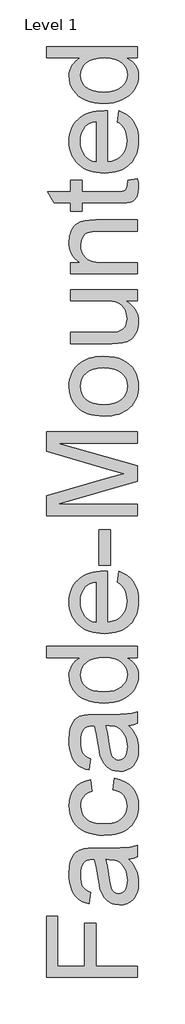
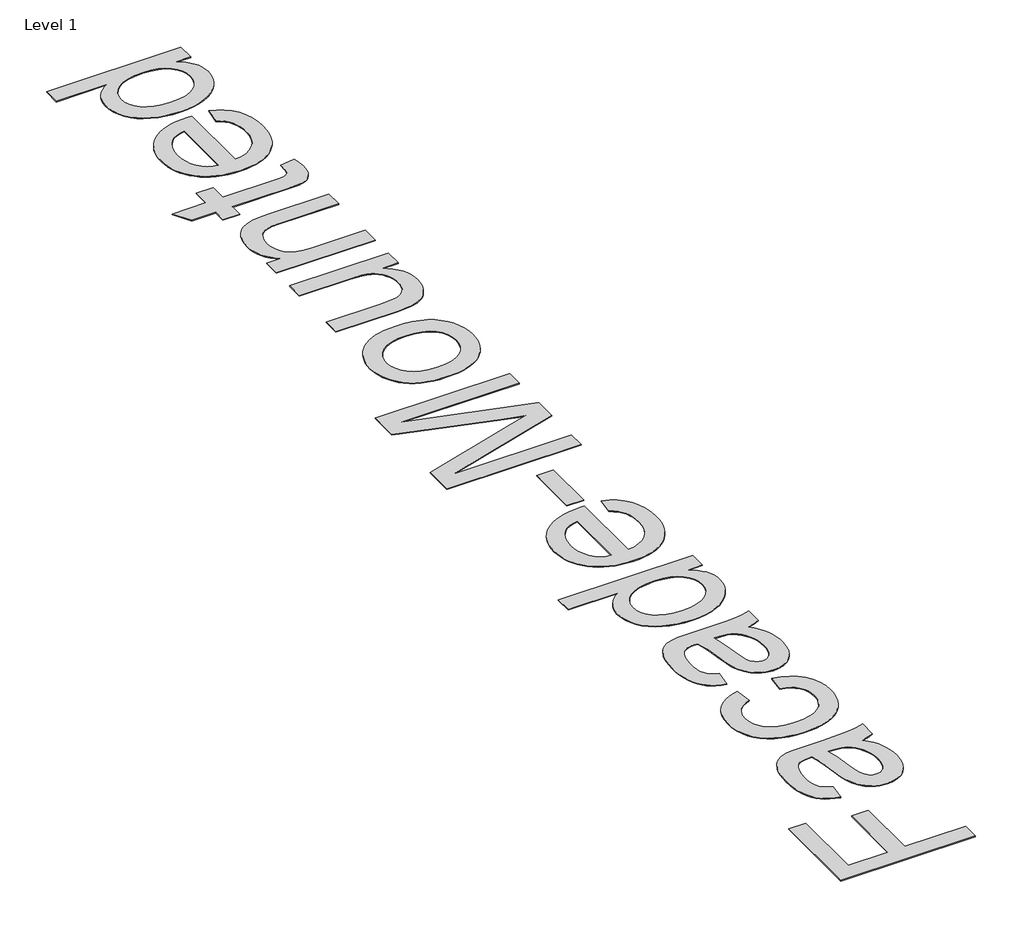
# One storey, part 16 of 69: 1 proxy.
"""IFC4 building model written with IfcOpenShell, lengths in millimetres."""

from ifc_helpers import new_model, si_unit, origin, origin_with_axes, place, context, project, spatial, polyline, outline, extrude, element, save

model = new_model("IFC4")

# Units and contexts
model_context = context("Model", 3, world=origin())
ifc_project = project(units=[si_unit("LENGTHUNIT", "METRE", prefix="MILLI")], contexts=[model_context])

# Site, building, storey
site = spatial("IfcSite", under=ifc_project)
building = spatial("IfcBuilding", under=site)
storey = spatial("IfcBuildingStorey", under=building, Name="Level 1", Elevation=0.0)

# Proxy
placement = place(None, origin())
element("IfcBuildingElementProxy", 1, Name="1000mm Arial", ObjectType="1000mm Arial", at=placement, inside=storey, context=model_context, shape_type="SweptSolid", body=[
    extrude(outline(polyline([(70561.0349961, -25723.1471203), (69556.4718946, -25723.1471203), (69556.4718946, -25048.2062865), (69682.0422823, -25048.2062865), (69682.0422823, -25597.5767326), (69980.271953, -25597.5767326), (69980.271953, -25126.6877788), (70105.8423407, -25126.6877788), (70105.8423407, -25597.5767326), (70561.0349961, -25597.5767326), (70561.0349961, -25723.1471203)])), origin_with_axes(), (0.0, 0.0, 1.0), 5.0),
    extrude(outline(polyline([(70466.8572053, -24420.3543481), (70494.8009085, -24450.1297971), (70518.299371, -24480.3497701), (70537.3525927, -24511.0142673), (70551.9605735, -24542.1232885), (70562.797764, -24574.0293874), (70570.5386143, -24607.0851175), (70575.1831245, -24641.2904788), (70576.7312946, -24676.6454714), (70573.0064894, -24732.5558704), (70561.8320737, -24781.5838105), (70543.2080477, -24823.7292916), (70517.1344113, -24858.9923137), (70485.2666335, -24886.8363822), (70449.2601832, -24906.7250025), (70409.1150605, -24918.6581748), (70364.8312653, -24922.6358988), (70312.775963, -24916.6271596), (70288.5417366, -24909.1162355), (70265.5031266, -24898.6009418), (70225.0361072, -24870.7951943), (70193.3982556, -24835.447866), (70169.4859259, -24793.9078573), (70152.1954721, -24747.5240691), (70142.5692266, -24702.3358974), (70133.310863, -24638.8762532), (70113.4452353, -24510.4854369), (70102.2248344, -24460.913338), (70090.1460423, -24421.0901121), (70062.1870106, -24420.3543481), (70031.7447755, -24422.5156548), (70006.14632, -24428.999575), (69985.3916441, -24439.8061086), (69969.4807478, -24454.9352556), (69953.6005084, -24481.0855341), (69942.2574802, -24512.9379835), (69935.4516633, -24550.4926039), (69933.1830577, -24593.7493951), (69934.6929067, -24633.9711599), (69939.2224537, -24668.5520675), (69946.7716989, -24697.4921178), (69957.340642, -24720.7913108), (69971.7570177, -24739.936503), (69990.8485604, -24756.4145507), (70014.6152701, -24770.2254539), (70043.0571469, -24781.3692127), (70027.3608484, -24906.9396004), (69991.1857856, -24897.3823327), (69958.6895427, -24885.1425922), (69929.8721197, -24870.2203787), (69904.7335167, -24852.6156924), (69882.7678959, -24831.5697766), (69863.4694196, -24806.3238747), (69846.8380877, -24776.8779867), (69832.8739003, -24743.2321125), (69821.822112, -24706.0683668), (69813.9279776, -24666.068864), (69809.1914969, -24623.2336042), (69807.61267, -24577.5625873), (69813.1922136, -24492.673817), (69820.1666431, -24456.8283151), (69829.9308443, -24425.3820687), (69855.1001042, -24374.6450102), (69869.8230482, -24355.093615), (69885.9715349, -24339.4203091), (69924.1392919, -24316.0598024), (69971.1975305, -24300.915327), (70014.6076059, -24296.316802), (70081.0716197, -24294.7839604), (70237.2988403, -24294.7839604), (70373.3845217, -24293.1898051), (70455.4528635, -24288.4073391), (70509.3782326, -24278.9650346), (70561.0349961, -24263.3913635), (70561.0349961, -24388.9617512), (70517.379666, -24409.0726336), (70466.8572053, -24420.3543481)]), holes=[polyline([(70215.71643, -24420.3543481), (70236.62439, -24504.7219523), (70254.2214121, -24622.9347001), (70263.8476577, -24688.0804701), (70274.5775492, -24730.9693793), (70288.4957513, -24759.0816951), (70307.6869287, -24779.8976847), (70330.6795534, -24792.7735545), (70356.0020974, -24797.0655111), (70375.5151716, -24794.7279276), (70393.34212, -24787.7151771), (70409.4829425, -24776.0272595), (70423.9376392, -24759.664175), (70435.8478188, -24738.7792075), (70444.35509, -24713.5256414), (70449.4594526, -24683.9034766), (70451.1609069, -24649.9127131), (70449.2831758, -24615.2091782), (70443.6499828, -24582.4676806), (70434.2613277, -24551.6882204), (70421.1172106, -24522.8707974), (70405.305949, -24496.8738031), (70387.9158605, -24474.5556287), (70368.9469452, -24455.9162743), (70348.3992029, -24440.9557398), (70330.0051031, -24432.2645277), (70307.6869287, -24426.056519), (70251.2783562, -24421.0901121), (70215.71643, -24420.3543481)])]), origin_with_axes(), (0.0, 0.0, 1.0), 5.0),
    extrude(outline(polyline([(70294.1979223, -23651.2357235), (70309.8942207, -23525.6653358), (70369.1462146, -23539.3229549), (70421.5770631, -23560.675439), (70467.1867663, -23589.7227882), (70505.9753241, -23626.4650025), (70536.9310612, -23669.3539118), (70559.042302, -23716.841346), (70572.3090464, -23768.9273051), (70576.7312946, -23825.6117892), (70575.1888726, -23861.7351187), (70570.5616069, -23896.0381987), (70562.8494974, -23928.5210292), (70552.052544, -23959.1836103), (70538.1707469, -23988.0259419), (70521.2041059, -24015.0480241), (70501.1526211, -24040.2498568), (70478.0162925, -24063.6314401), (70451.9982216, -24084.6984325), (70423.3015099, -24102.9564925), (70391.9261575, -24118.4056203), (70357.8721643, -24131.0458157), (70321.1395302, -24140.8770788), (70281.7282555, -24147.8994096), (70194.8697836, -24153.5172742), (70137.1353029, -24151.1183771), (70083.1256275, -24143.9216855), (70032.8407573, -24131.9271997), (69986.2806923, -24115.1349194), (69944.3804659, -24093.4298817), (69908.0751115, -24066.6971234), (69877.3646291, -24034.9366445), (69852.2490187, -23998.1484449), (69832.7206161, -23957.995658), (69818.7717572, -23916.1414169), (69810.4024418, -23872.5857215), (69807.61267, -23827.3285719), (69811.4447741, -23771.6174422), (69822.9410864, -23721.2252731), (69842.101607, -23676.1520645), (69868.9263358, -23636.3978164), (69902.8021362, -23602.6369791), (69943.1158715, -23575.544003), (69989.8675417, -23555.118888), (70043.0571469, -23541.3616343), (70058.7534453, -23666.932022), (70029.4225204, -23676.7345443), (70003.9696849, -23689.7100488), (69982.3949387, -23705.8585356), (69964.6982819, -23725.1800045), (69950.9103713, -23747.1839464), (69941.0618637, -23771.3798518), (69935.1527592, -23797.7677207), (69933.1830577, -23826.3475532), (69937.061147, -23869.0142004), (69948.6954151, -23907.49619), (69968.0858619, -23941.7935218), (69995.2324875, -23971.906196), (70030.7637569, -23996.4239981), (70075.3081351, -24013.9367139), (70128.8656223, -24024.4443434), (70191.4362183, -24027.9468866), (70254.9495119, -24024.5209855), (70309.1277999, -24014.2432822), (70353.9710823, -23997.1137768), (70389.479359, -23973.1324693), (70416.4650362, -23943.6176034), (70435.7405199, -23909.8874229), (70447.3058101, -23871.941928), (70451.1609069, -23829.7811185), (70448.7543455, -23795.8056834), (70441.5346613, -23764.7579758), (70429.5018544, -23736.6379958), (70412.6559247, -23711.4457434), (70390.8129312, -23689.8863256), (70363.788933, -23672.6648497), (70331.58393, -23659.7813157), (70294.1979223, -23651.2357235)])), origin_with_axes(), (0.0, 0.0, 1.0), 5.0),
    extrude(outline(polyline([(70466.8572053, -22944.9022928), (70494.8009085, -22974.6777417), (70518.299371, -23004.8977148), (70537.3525927, -23035.5622119), (70551.9605735, -23066.6712332), (70562.797764, -23098.577332), (70570.5386143, -23131.6330621), (70575.1831245, -23165.8384235), (70576.7312946, -23201.1934161), (70573.0064894, -23257.1038151), (70561.8320737, -23306.1317552), (70543.2080477, -23348.2772363), (70517.1344113, -23383.5402583), (70485.2666335, -23411.3843268), (70449.2601832, -23431.2729472), (70409.1150605, -23443.2061194), (70364.8312653, -23447.1838435), (70312.775963, -23441.1751042), (70288.5417366, -23433.6641802), (70265.5031266, -23423.1488865), (70225.0361072, -23395.343139), (70193.3982556, -23359.9958106), (70169.4859259, -23318.455802), (70152.1954721, -23272.0720138), (70142.5692266, -23226.8838421), (70133.310863, -23163.4241979), (70113.4452353, -23035.0333816), (70102.2248344, -22985.4612827), (70090.1460423, -22945.6380567), (70062.1870106, -22944.9022928), (70031.7447755, -22947.0635995), (70006.14632, -22953.5475196), (69985.3916441, -22964.3540532), (69969.4807478, -22979.4832003), (69953.6005084, -23005.6334788), (69942.2574802, -23037.4859282), (69935.4516633, -23075.0405485), (69933.1830577, -23118.2973398), (69934.6929067, -23158.5191046), (69939.2224537, -23193.1000122), (69946.7716989, -23222.0400625), (69957.340642, -23245.3392555), (69971.7570177, -23264.4844476), (69990.8485604, -23280.9624953), (70014.6152701, -23294.7733986), (70043.0571469, -23305.9171574), (70027.3608484, -23431.487545), (69991.1857856, -23421.9302774), (69958.6895427, -23409.6905368), (69929.8721197, -23394.7683234), (69904.7335167, -23377.1636371), (69882.7678959, -23356.1177213), (69863.4694196, -23330.8718194), (69846.8380877, -23301.4259313), (69832.8739003, -23267.7800572), (69821.822112, -23230.6163115), (69813.9279776, -23190.6168087), (69809.1914969, -23147.7815489), (69807.61267, -23102.110532), (69813.1922136, -23017.2217616), (69820.1666431, -22981.3762597), (69829.9308443, -22949.9300134), (69855.1001042, -22899.1929549), (69869.8230482, -22879.6415597), (69885.9715349, -22863.9682538), (69924.1392919, -22840.6077471), (69971.1975305, -22825.4632717), (70014.6076059, -22820.8647467), (70081.0716197, -22819.3319051), (70237.2988403, -22819.3319051), (70373.3845217, -22817.7377498), (70455.4528635, -22812.9552838), (70509.3782326, -22803.5129793), (70561.0349961, -22787.9393081), (70561.0349961, -22913.5096958), (70517.379666, -22933.6205782), (70466.8572053, -22944.9022928)]), holes=[polyline([(70215.71643, -22944.9022928), (70236.62439, -23029.269897), (70254.2214121, -23147.4826448), (70263.8476577, -23212.6284147), (70274.5775492, -23255.517324), (70288.4957513, -23283.6296398), (70307.6869287, -23304.4456294), (70330.6795534, -23317.3214992), (70356.0020974, -23321.6134558), (70375.5151716, -23319.2758723), (70393.34212, -23312.2631218), (70409.4829425, -23300.5752042), (70423.9376392, -23284.2121196), (70435.8478188, -23263.3271522), (70444.35509, -23238.0735861), (70449.4594526, -23208.4514213), (70451.1609069, -23174.4606577), (70449.2831758, -23139.7571229), (70443.6499828, -23107.0156253), (70434.2613277, -23076.236165), (70421.1172106, -23047.4187421), (70405.305949, -23021.4217478), (70387.9158605, -22999.1035734), (70368.9469452, -22980.464219), (70348.3992029, -22965.5036845), (70330.0051031, -22956.8124723), (70307.6869287, -22950.6044637), (70251.2783562, -22945.6380567), (70215.71643, -22944.9022928)])]), origin_with_axes(), (0.0, 0.0, 1.0), 5.0),
    extrude(outline(polyline([(70561.0349961, -22191.4799666), (70442.5769936, -22191.4799666), (70474.0194079, -22209.272426), (70501.2695003, -22229.0499154), (70524.3272708, -22250.8124347), (70543.1927193, -22274.5599839), (70557.865846, -22300.292563), (70568.3466507, -22328.0101721), (70574.6351336, -22357.7128111), (70576.7312946, -22389.40048), (70573.6962681, -22430.8485182), (70564.5911887, -22470.5797736), (70549.4160564, -22508.5942465), (70528.1708712, -22544.8919367), (70501.4917623, -22578.3385414), (70470.0148591, -22607.7997578), (70433.7401616, -22633.275586), (70392.6676696, -22654.7660259), (70347.5791326, -22671.8265534), (70299.2562997, -22684.0126445), (70247.6991709, -22691.3242992), (70192.9077463, -22693.7615174), (70139.1203329, -22691.5159044), (70087.8774366, -22684.7790653), (70039.1790575, -22673.5510003), (69993.0251955, -22657.8317092), (69950.7647513, -22637.6288563), (69913.7466256, -22612.9501058), (69881.9708182, -22583.7954577), (69855.4373293, -22550.1649119), (69834.5140409, -22513.2464209), (69819.5688348, -22474.2279368), (69810.6017112, -22433.1094596), (69807.61267, -22389.8909894), (69809.7509841, -22358.2837946), (69816.1659264, -22328.4546962), (69826.8574968, -22300.403694), (69841.8256955, -22274.1307882), (69860.2121311, -22249.9272186), (69881.1584122, -22228.0842252), (69904.6645388, -22208.6018078), (69930.730511, -22191.4799666), (69556.4718946, -22191.4799666), (69556.4718946, -22065.9095789), (70561.0349961, -22065.9095789), (70561.0349961, -22191.4799666)]), holes=[polyline([(70192.4172369, -22568.1911297), (70253.3093713, -22564.6502655), (70306.0008029, -22554.0276729), (70350.4915317, -22536.3233519), (70386.7815577, -22511.5373024), (70414.947523, -22481.9381302), (70435.0660696, -22449.7944409), (70447.1371975, -22415.1062345), (70451.1609069, -22377.8735109), (70447.3211385, -22340.4645105), (70435.8018336, -22305.9832376), (70416.6029919, -22274.4296923), (70389.7246137, -22245.8038746), (70354.9521009, -22222.0371649), (70312.0708559, -22205.0609436), (70261.0808785, -22194.8752109), (70201.9821688, -22191.4799666), (70137.1889524, -22194.9365245), (70081.6234427, -22205.3061983), (70035.2856397, -22222.5889878), (69998.1755435, -22246.7848932), (69969.7413309, -22276.0391761), (69949.4311791, -22308.4970979), (69937.245088, -22344.1586588), (69933.1830577, -22383.0238588), (69937.0841396, -22420.9923464), (69948.7873856, -22455.6805528), (69968.2927956, -22487.0884782), (69995.6003695, -22515.2161224), (70031.3079157, -22538.3926881), (70076.0132423, -22554.9473779), (70129.7163494, -22564.8801917), (70192.4172369, -22568.1911297)])]), origin_with_axes(), (0.0, 0.0, 1.0), 5.0),
    extrude(outline(polyline([(70341.2868176, -21361.0476762), (70356.9831161, -21237.9298351), (70406.2946319, -21256.80678), (70449.7506926, -21282.2902724), (70487.3512981, -21314.3803123), (70519.0964486, -21353.0768996), (70544.3116937, -21397.9814957), (70562.3225831, -21448.6955615), (70573.1291167, -21505.2190973), (70576.7312946, -21567.5521028), (70575.1773763, -21607.5707661), (70570.5156217, -21645.4664437), (70562.7460306, -21681.2391356), (70551.868603, -21714.8888419), (70537.8833391, -21746.4155624), (70520.7902387, -21775.8192973), (70500.5893018, -21803.1000465), (70477.2805285, -21828.2578101), (70451.166655, -21850.8480638), (70422.5504175, -21870.4262838), (70391.4318161, -21886.9924699), (70357.8108506, -21900.5466221), (70321.6875211, -21911.0887405), (70283.0618277, -21918.6188251), (70241.9337703, -21923.1368759), (70198.3033488, -21924.6428928), (70153.1879871, -21923.1215475), (70110.6707919, -21918.5575115), (70070.7517633, -21910.9507848), (70033.4309013, -21900.3013675), (69998.7082059, -21886.6092594), (69966.5836771, -21869.8744608), (69937.0573149, -21850.0969714), (69910.1291193, -21827.2767914), (69886.1018265, -21802.0308895), (69865.2781727, -21774.9762344), (69847.658158, -21746.1128262), (69833.2417823, -21715.4406649), (69822.0290457, -21682.9597504), (69814.0199481, -21648.6700827), (69809.2144895, -21612.571662), (69807.61267, -21574.6644881), (69809.2106574, -21537.9969998), (69814.0046196, -21503.0424621), (69821.9945567, -21469.800875), (69833.1804686, -21438.2722383), (69847.5623554, -21408.4565523), (69865.140217, -21380.3538167), (69885.9140534, -21353.9640317), (69909.8838646, -21329.2871973), (69936.7507466, -21306.9556105), (69966.2157951, -21287.6015687), (69998.2790103, -21271.2250718), (70032.940392, -21257.8261197), (70070.1999403, -21247.4047126), (70110.0576553, -21239.9608503), (70197.5675849, -21234.0057605), (70231.4127284, -21234.7415245), (70231.4127284, -21799.0725051), (70281.5213218, -21791.7991715), (70325.4065782, -21777.3368106), (70363.0684974, -21755.6854223), (70394.5070796, -21726.8450067), (70419.293129, -21692.4097191), (70436.9974501, -21653.9737148), (70447.6200427, -21611.5369939), (70451.1609069, -21565.0995562), (70449.5207663, -21530.3653645), (70444.6003446, -21498.2676604), (70436.3996418, -21468.8064439), (70424.9186579, -21441.9817151), (70409.8508245, -21417.7934739), (70390.8895733, -21396.2417204), (70368.0349044, -21377.3264545), (70341.2868176, -21361.0476762)]), holes=[polyline([(70105.8423407, -21799.0725051), (70105.8423407, -21359.5761482), (70070.3110714, -21366.0294115), (70039.5009543, -21376.5600337), (70013.4119894, -21391.1680145), (69992.0441769, -21409.8533542), (69966.2924372, -21444.0970366), (69947.8983375, -21483.0618713), (69936.8618776, -21526.7478582), (69933.1830577, -21575.1549974), (69936.1184494, -21619.308501), (69944.9246247, -21659.7985131), (69959.6015834, -21696.6250337), (69980.1493257, -21729.7880627), (70005.6174897, -21757.6168028), (70035.0557135, -21778.4404565), (70068.4639972, -21792.259024), (70105.8423407, -21799.0725051)])]), origin_with_axes(), (0.0, 0.0, 1.0), 5.0),
    extrude(outline(polyline([(70262.8053253, -21171.2205667), (70137.2349376, -21171.2205667), (70137.2349376, -20778.8131052), (70262.8053253, -20778.8131052), (70262.8053253, -21171.2205667)])), origin_with_axes(), (0.0, 0.0, 1.0), 5.0),
    extrude(outline(polyline([(70561.0349961, -20621.8501205), (69556.4718946, -20621.8501205), (69556.4718946, -20405.780762), (70264.522108, -20200.2573541), (70412.41067, -20158.8093159), (70252.2593748, -20113.9277125), (69556.4718946, -19911.8378699), (69556.4718946, -19695.7685114), (70561.0349961, -19695.7685114), (70561.0349961, -19821.338899), (69682.0422823, -19821.338899), (70561.0349961, -20073.7059477), (70561.0349961, -20243.9126842), (69682.0422823, -20496.2797329), (70561.0349961, -20496.2797329), (70561.0349961, -20621.8501205)])), origin_with_axes(), (0.0, 0.0, 1.0), 5.0),
    extrude(outline(polyline([(70192.1719823, -19523.1092283), (70142.7493355, -19521.4116062), (70096.6299624, -19516.3187398), (70053.8138631, -19507.8306292), (70014.3010376, -19495.9472743), (69978.0914858, -19480.6686752), (69945.1852077, -19461.9948318), (69915.5822034, -19439.9257442), (69889.2824729, -19414.4614124), (69853.5519341, -19366.6060962), (69828.0301207, -19313.784373), (69812.7170327, -19255.996243), (69807.61267, -19193.2417059), (69809.1665882, -19157.7736663), (69813.8283428, -19123.9649277), (69821.5979339, -19091.8154902), (69832.4753615, -19061.3253538), (69846.4606254, -19032.4945185), (69863.5537259, -19005.3229843), (69883.7546627, -18979.8107511), (69907.063436, -18955.9578191), (69933.1121637, -18934.3734926), (69961.5329639, -18915.6670764), (69992.3258365, -18899.8385703), (70025.4907816, -18886.8879745), (70061.0277991, -18876.8152888), (70098.9368891, -18869.6205133), (70181.8712864, -18863.8646929), (70249.0863926, -18866.4092101), (70308.7292611, -18874.0427615), (70360.7998918, -18886.7653471), (70405.2982848, -18904.5769671), (70443.7342891, -18927.2553592), (70477.6177537, -18954.5782616), (70506.9486786, -18986.5456741), (70531.7270638, -19023.1575968), (70551.4164148, -19062.988487), (70565.4802369, -19104.6128019), (70573.9185301, -19148.0305416), (70576.7312946, -19193.2417059), (70575.1831245, -19229.2692328), (70570.5386143, -19263.5301596), (70562.797764, -19296.0244865), (70551.9605735, -19326.7522134), (70538.027043, -19355.7133402), (70520.9971723, -19382.9078671), (70500.8709615, -19408.3357939), (70477.6484105, -19431.9971208), (70451.5134604, -19453.351521), (70422.6500522, -19471.8586678), (70391.0581859, -19487.5185613), (70356.7378614, -19500.3312014), (70319.6890788, -19510.2965882), (70279.9118381, -19517.4147216), (70192.1719823, -19523.1092283)]), holes=[polyline([(70191.9267276, -19397.5388406), (70252.8341904, -19393.9060059), (70305.5716073, -19383.0075018), (70350.1389781, -19364.8433283), (70386.536303, -19339.4134854), (70414.8095672, -19308.4807409), (70435.0047559, -19273.8078629), (70447.1218691, -19235.3948512), (70451.1609069, -19193.2417059), (70447.0988765, -19151.3031585), (70434.9127854, -19113.043431), (70414.6026336, -19078.4625234), (70386.1684211, -19047.5604359), (70349.4108784, -19022.1305929), (70304.1307361, -19003.9664194), (70250.3279943, -18993.0679153), (70188.002653, -18989.4350806), (70129.0265706, -18993.0909079), (70077.6687113, -19004.0583899), (70033.9290749, -19022.3375266), (69997.8076615, -19047.9283178), (69969.5343973, -19078.9453686), (69949.3392086, -19113.5032835), (69937.2220954, -19151.6020626), (69933.1830577, -19193.2417059), (69937.206767, -19235.3948512), (69949.2778949, -19273.8078629), (69969.3964416, -19308.4807409), (69997.5624068, -19339.4134854), (70033.8524328, -19364.8433283), (70078.3431616, -19383.0075018), (70131.0345932, -19393.9060059), (70191.9267276, -19397.5388406)])]), origin_with_axes(), (0.0, 0.0, 1.0), 5.0),
    extrude(outline(polyline([(70561.0349961, -18251.709053), (70434.2383351, -18251.709053), (70467.6351225, -18273.4907328), (70496.5790049, -18297.1424794), (70521.0699823, -18322.6642928), (70541.1080547, -18350.056173), (70556.6932221, -18379.31812), (70567.8254846, -18410.4501339), (70574.5048421, -18443.4522145), (70576.7312946, -18478.324362), (70575.1677961, -18509.4333832), (70570.4773006, -18539.4847437), (70562.6598082, -18568.4784434), (70551.7153189, -18596.4144824), (70523.5110326, -18644.1778281), (70507.0176565, -18662.7711973), (70488.930125, -18677.8390307), (70446.9302639, -18700.4944302), (70396.4691169, -18715.2403669), (70348.8897122, -18720.7585968), (70279.7278971, -18722.5980068), (69823.3089684, -18722.5980068), (69823.3089684, -18597.0276191), (70220.6215232, -18597.0276191), (70300.0840342, -18595.1268955), (70348.6444575, -18589.4247245), (70371.2768645, -18581.9061362), (70391.3494258, -18571.1225953), (70408.8621416, -18557.0741016), (70423.8150119, -18539.7606552), (70435.7788409, -18519.7034222), (70444.3244331, -18497.4235689), (70449.4517884, -18472.9210952), (70451.1609069, -18446.1960011), (70449.4134674, -18418.6738293), (70444.171149, -18392.0253773), (70435.4339516, -18366.250645), (70423.2018752, -18341.3496324), (70407.9577651, -18318.6712403), (70390.1844662, -18299.5643692), (70369.8819786, -18284.0290191), (70347.0503022, -18272.06519), (70320.2332376, -18263.1593801), (70287.9745852, -18256.7980872), (70207.1325167, -18251.709053), (69823.3089684, -18251.709053), (69823.3089684, -18126.1386653), (70561.0349961, -18126.1386653), (70561.0349961, -18251.709053)])), origin_with_axes(), (0.0, 0.0, 1.0), 5.0),
    extrude(outline(polyline([(70561.0349961, -17953.4793822), (69823.3089684, -17953.4793822), (69823.3089684, -17827.9089945), (69926.3159271, -17827.9089945), (69898.4948512, -17807.1926397), (69874.3832521, -17784.2843212), (69853.9811298, -17759.1840393), (69837.2884842, -17731.8917938), (69824.3053155, -17702.4075847), (69815.0316235, -17670.7314121), (69809.4674084, -17636.8632759), (69807.61267, -17600.8031762), (69813.5907524, -17538.9070305), (69821.0633554, -17509.9133307), (69831.5249997, -17482.2225464), (69844.4161979, -17456.884674), (69859.177463, -17434.94971), (69875.8087948, -17416.4176545), (69894.3101935, -17401.2885074), (69936.8312208, -17378.4491669), (69986.6485743, -17363.6419166), (70034.2892927, -17358.6755097), (70108.0496327, -17357.0200407), (70561.0349961, -17357.0200407), (70561.0349961, -17482.5904284), (70124.9722045, -17482.5904284), (70060.0410323, -17486.2079347), (70013.8718419, -17497.0604535), (69996.4051114, -17505.6826878), (69980.7931192, -17517.0793654), (69967.0358654, -17531.2504864), (69955.13335, -17548.1960508), (69938.6706308, -17588.0805905), (69933.1830577, -17634.403065), (69936.2640694, -17672.532501), (69945.5071045, -17707.9488072), (69960.912163, -17740.6519838), (69982.479245, -17770.6420306), (70012.660897, -17795.6963273), (70053.9096657, -17813.5922535), (70106.2255511, -17824.3298093), (70169.6085532, -17827.9089945), (70561.0349961, -17827.9089945), (70561.0349961, -17953.4793822)])), origin_with_axes(), (0.0, 0.0, 1.0), 5.0),
    extrude(outline(polyline([(70456.3112548, -16917.5236838), (70564.713816, -16901.8273853), (70573.7269249, -16951.5527683), (70576.7312946, -16995.7599214), (70571.519633, -17056.031255), (70565.005056, -17080.4187656), (70555.8846482, -17100.974172), (70531.7883775, -17132.734651), (70517.3030239, -17144.476218), (70501.1928582, -17153.45867), (70479.5951194, -17160.1112028), (70448.6470466, -17164.8630119), (70358.6998987, -17168.6644592), (69948.8793561, -17168.6644592), (69948.8793561, -17262.8422499), (69823.3089684, -17262.8422499), (69823.3089684, -17168.6644592), (69644.0278094, -17168.6644592), (69570.2061557, -17043.0940715), (69823.3089684, -17043.0940715), (69823.3089684, -16917.5236838), (69948.8793561, -16917.5236838), (69948.8793561, -17043.0940715), (70355.0210788, -17043.0940715), (70396.3464896, -17041.4386025), (70419.7683099, -17036.4721956), (70432.7361503, -17027.7963118), (70442.699621, -17015.0124125), (70449.0455854, -16996.8942242), (70451.1609069, -16972.2154737), (70456.3112548, -16917.5236838)])), origin_with_axes(), (0.0, 0.0, 1.0), 5.0),
    extrude(outline(polyline([(70341.2868176, -16275.4469749), (70356.9831161, -16152.3291338), (70406.2946319, -16171.2060787), (70449.7506926, -16196.6895711), (70487.3512981, -16228.7796109), (70519.0964486, -16267.4761983), (70544.3116937, -16312.3807943), (70562.3225831, -16363.0948602), (70573.1291167, -16419.6183959), (70576.7312946, -16481.9514015), (70575.1773763, -16521.9700648), (70570.5156217, -16559.8657424), (70562.7460306, -16595.6384343), (70551.868603, -16629.2881406), (70537.8833391, -16660.8148611), (70520.7902387, -16690.218596), (70500.5893018, -16717.4993452), (70477.2805285, -16742.6571087), (70451.166655, -16765.2473625), (70422.5504175, -16784.8255824), (70391.4318161, -16801.3917685), (70357.8108506, -16814.9459208), (70321.6875211, -16825.4880392), (70283.0618277, -16833.0181238), (70241.9337703, -16837.5361746), (70198.3033488, -16839.0421915), (70153.1879871, -16837.5208461), (70110.6707919, -16832.9568101), (70070.7517633, -16825.3500835), (70033.4309013, -16814.7006661), (69998.7082059, -16801.0085581), (69966.5836771, -16784.2737594), (69937.0573149, -16764.4962701), (69910.1291193, -16741.6760901), (69886.1018265, -16716.4301882), (69865.2781727, -16689.3755331), (69847.658158, -16660.5121249), (69833.2417823, -16629.8399636), (69822.0290457, -16597.3590491), (69814.0199481, -16563.0693814), (69809.2144895, -16526.9709606), (69807.61267, -16489.0637867), (69809.2106574, -16452.3962985), (69814.0046196, -16417.4417608), (69821.9945567, -16384.2001736), (69833.1804686, -16352.671537), (69847.5623554, -16322.8558509), (69865.140217, -16294.7531154), (69885.9140534, -16268.3633304), (69909.8838646, -16243.6864959), (69936.7507466, -16221.3549092), (69966.2157951, -16202.0008674), (69998.2790103, -16185.6243704), (70032.940392, -16172.2254184), (70070.1999403, -16161.8040112), (70110.0576553, -16154.360149), (70197.5675849, -16148.4050592), (70231.4127284, -16149.1408232), (70231.4127284, -16713.4718038), (70281.5213218, -16706.1984702), (70325.4065782, -16691.7361092), (70363.0684974, -16670.084721), (70394.5070796, -16641.2443054), (70419.293129, -16606.8090178), (70436.9974501, -16568.3730135), (70447.6200427, -16525.9362925), (70451.1609069, -16479.4988549), (70449.5207663, -16444.7646631), (70444.6003446, -16412.6669591), (70436.3996418, -16383.2057426), (70424.9186579, -16356.3810138), (70409.8508245, -16332.1927726), (70390.8895733, -16310.6410191), (70368.0349044, -16291.7257531), (70341.2868176, -16275.4469749)]), holes=[polyline([(70105.8423407, -16713.4718038), (70105.8423407, -16273.9754469), (70070.3110714, -16280.4287102), (70039.5009543, -16290.9593323), (70013.4119894, -16305.5673132), (69992.0441769, -16324.2526529), (69966.2924372, -16358.4963353), (69947.8983375, -16397.4611699), (69936.8618776, -16441.1471569), (69933.1830577, -16489.5542961), (69936.1184494, -16533.7077997), (69944.9246247, -16574.1978118), (69959.6015834, -16611.0243323), (69980.1493257, -16644.1873614), (70005.6174897, -16672.0161015), (70035.0557135, -16692.8397552), (70068.4639972, -16706.6583227), (70105.8423407, -16713.4718038)])]), origin_with_axes(), (0.0, 0.0, 1.0), 5.0),
    extrude(outline(polyline([(70561.0349961, -15567.6420161), (70442.5769936, -15567.6420161), (70474.0194079, -15585.4344756), (70501.2695003, -15605.2119649), (70524.3272708, -15626.9744842), (70543.1927193, -15650.7220334), (70557.865846, -15676.4546125), (70568.3466507, -15704.1722216), (70574.6351336, -15733.8748606), (70576.7312946, -15765.5625295), (70573.6962681, -15807.0105677), (70564.5911887, -15846.7418232), (70549.4160564, -15884.756296), (70528.1708712, -15921.0539862), (70501.4917623, -15954.5005909), (70470.0148591, -15983.9618074), (70433.7401616, -16009.4376355), (70392.6676696, -16030.9280754), (70347.5791326, -16047.9886029), (70299.2562997, -16060.174694), (70247.6991709, -16067.4863487), (70192.9077463, -16069.9235669), (70139.1203329, -16067.6779539), (70087.8774366, -16060.9411148), (70039.1790575, -16049.7130498), (69993.0251955, -16033.9937587), (69950.7647513, -16013.7909058), (69913.7466256, -15989.1121553), (69881.9708182, -15959.9575072), (69855.4373293, -15926.3269614), (69834.5140409, -15889.4084704), (69819.5688348, -15850.3899863), (69810.6017112, -15809.2715091), (69807.61267, -15766.0530389), (69809.7509841, -15734.4458441), (69816.1659264, -15704.6167457), (69826.8574968, -15676.5657435), (69841.8256955, -15650.2928377), (69860.2121311, -15626.0892681), (69881.1584122, -15604.2462747), (69904.6645388, -15584.7638573), (69930.730511, -15567.6420161), (69556.4718946, -15567.6420161), (69556.4718946, -15442.0716285), (70561.0349961, -15442.0716285), (70561.0349961, -15567.6420161)]), holes=[polyline([(70192.4172369, -15944.3531792), (70253.3093713, -15940.812315), (70306.0008029, -15930.1897224), (70350.4915317, -15912.4854014), (70386.7815577, -15887.6993519), (70414.947523, -15858.1001798), (70435.0660696, -15825.9564904), (70447.1371975, -15791.268284), (70451.1609069, -15754.0355604), (70447.3211385, -15716.62656), (70435.8018336, -15682.1452871), (70416.6029919, -15650.5917418), (70389.7246137, -15621.9659241), (70354.9521009, -15598.1992144), (70312.0708559, -15581.2229931), (70261.0808785, -15571.0372604), (70201.9821688, -15567.6420161), (70137.1889524, -15571.0985741), (70081.6234427, -15581.4682478), (70035.2856397, -15598.7510374), (69998.1755435, -15622.9469428), (69969.7413309, -15652.2012256), (69949.4311791, -15684.6591474), (69937.245088, -15720.3207083), (69933.1830577, -15759.1859083), (69937.0841396, -15797.1543959), (69948.7873856, -15831.8426023), (69968.2927956, -15863.2505277), (69995.6003695, -15891.3781719), (70031.3079157, -15914.5547376), (70076.0132423, -15931.1094274), (70129.7163494, -15941.0422412), (70192.4172369, -15944.3531792)])]), origin_with_axes(), (0.0, 0.0, 1.0), 5.0),
])

save(model, "model.ifc")
